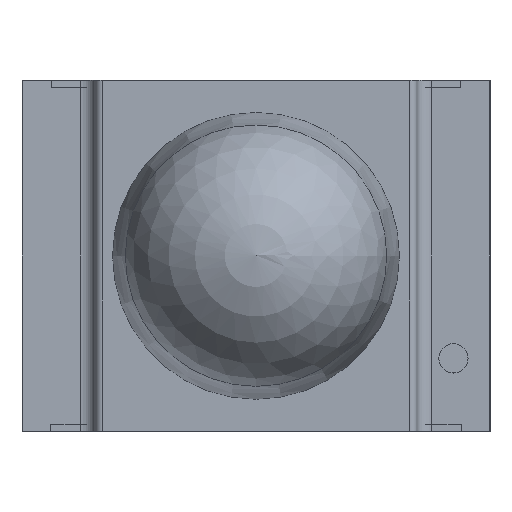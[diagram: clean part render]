
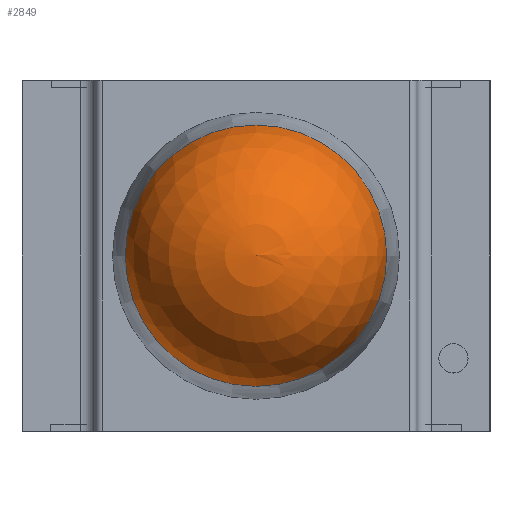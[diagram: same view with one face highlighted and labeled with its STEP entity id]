
A CAD part, top view. The second image highlights one B-rep face of the part: STEP entity #2849.
In plain terms, the highlighted spherical face has radius 0.9 mm.
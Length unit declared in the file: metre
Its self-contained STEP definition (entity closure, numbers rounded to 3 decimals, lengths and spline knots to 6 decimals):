
#105=SPHERICAL_SURFACE('',#3081,0.0009);
#118=CIRCLE('',#3080,0.000893);
#404=ORIENTED_EDGE('',*,*,#1102,.T.);
#1102=EDGE_CURVE('',#1473,#1473,#118,.T.);
#1473=VERTEX_POINT('',#4056);
#2397=EDGE_LOOP('',(#404));
#2566=FACE_BOUND('',#2397,.T.);
#2849=ADVANCED_FACE('',(#2566),#105,.T.);
#3080=AXIS2_PLACEMENT_3D('',#4055,#3401,#3402);
#3081=AXIS2_PLACEMENT_3D('',#4057,#3403,#3404);
#3401=DIRECTION('',(0.,0.,1.));
#3402=DIRECTION('',(1.,0.,0.));
#3403=DIRECTION('',(0.,0.,1.));
#3404=DIRECTION('',(1.,0.,0.));
#4055=CARTESIAN_POINT('',(0.,0.,0.00171));
#4056=CARTESIAN_POINT('',(0.000893,0.,0.00171));
#4057=CARTESIAN_POINT('',(0.,0.,0.0016));
